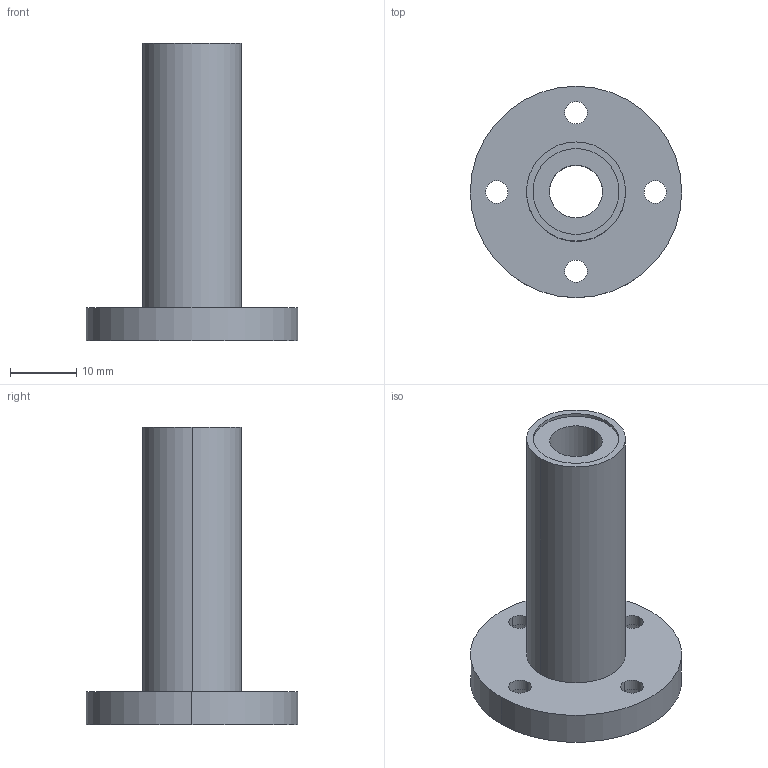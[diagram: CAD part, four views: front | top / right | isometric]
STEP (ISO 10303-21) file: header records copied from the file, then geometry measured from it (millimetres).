
FILE_DESCRIPTION((''),'2;1');
FILE_NAME('C:\Documents and Settings\ｿﾀﾀ蠑ｷ1\ｹﾙﾅﾁ ﾈｭｸ饅\ｺﾎﾇｰﾆﾄﾀﾏ\ﾁｦﾇｰ\LMF__LUU\LMF8LUU.stp','2005-06-15T09:41:02',('ｿﾀﾀ蠑ｷ1'),(''),'Autodesk Inventor 9','Autodesk Inventor 9','');
FILE_SCHEMA(('AUTOMOTIVE_DESIGN { 1 0 10303 214 1 1 1 1 }'));
Length unit declared in the file: millimetre
Products named in the file (1): LMF__
Bounding box: 32 x 32 x 45 mm (x, y, z)
Volume: 8224.2 mm3; surface area: 5315.3 mm2
Topology: 1 solids, 1 shells, 38 faces, 84 edges, 56 vertices
Faces by surface type: cylinder 28, plane 10
Entity records: 1127 total; most frequent: DIRECTION 218, CARTESIAN_POINT 179, ORIENTED_EDGE 168, AXIS2_PLACEMENT_3D 95, EDGE_CURVE 84, VERTEX_POINT 56, CIRCLE 56, EDGE_LOOP 56
